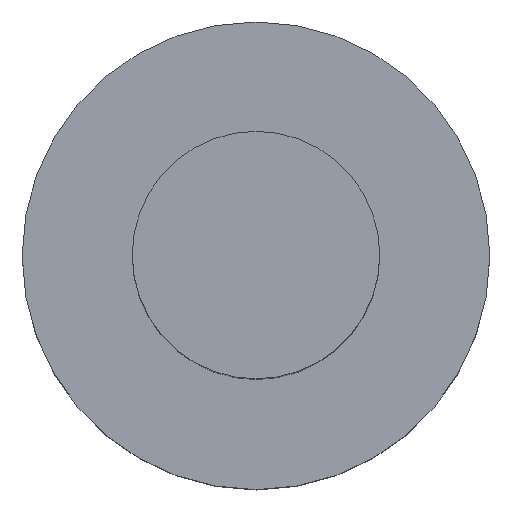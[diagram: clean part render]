
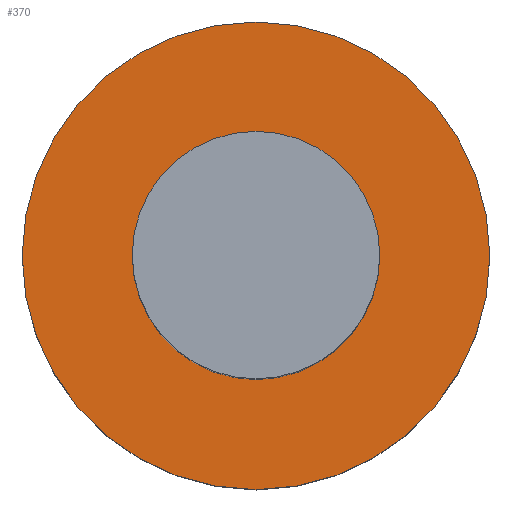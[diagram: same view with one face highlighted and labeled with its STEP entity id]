
A CAD part, top view. The second image highlights one B-rep face of the part: STEP entity #370.
In plain terms, the highlighted planar face has unit normal (0, 0, 1).
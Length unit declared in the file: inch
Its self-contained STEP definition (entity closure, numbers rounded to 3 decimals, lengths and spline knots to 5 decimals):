
#19=CARTESIAN_POINT('',(0.,0.,-0.375));
#20=DIRECTION('',(0.,0.,-1.));
#21=DIRECTION('',(1.,0.,0.));
#22=AXIS2_PLACEMENT_3D('',#19,#20,#21);
#24=CARTESIAN_POINT('',(0.,0.,-0.375));
#25=DIRECTION('',(0.,0.,1.));
#26=DIRECTION('',(1.,0.,0.));
#27=AXIS2_PLACEMENT_3D('',#24,#25,#26);
#34=CARTESIAN_POINT('',(0.,0.,-0.375));
#35=DIRECTION('',(0.,0.,1.));
#36=DIRECTION('',(1.,0.,0.));
#37=AXIS2_PLACEMENT_3D('',#34,#35,#36);
#114=CARTESIAN_POINT('',(0.,0.,-0.375));
#115=DIRECTION('',(0.,0.,-1.));
#116=DIRECTION('',(1.,0.,0.));
#117=AXIS2_PLACEMENT_3D('',#114,#115,#116);
#272=CARTESIAN_POINT('',(0.109,0.,-0.375));
#274=VERTEX_POINT('',#272);
#284=CARTESIAN_POINT('',(-0.109,0.,-0.375));
#286=VERTEX_POINT('',#284);
#295=CARTESIAN_POINT('',(0.206,0.,-0.375));
#296=CARTESIAN_POINT('',(-0.206,0.,-0.375));
#297=VERTEX_POINT('',#295);
#298=VERTEX_POINT('',#296);
#355=CARTESIAN_POINT('',(0.,0.,-0.375));
#356=DIRECTION('',(0.,0.,1.));
#357=DIRECTION('',(-1.,0.,0.));
#358=AXIS2_PLACEMENT_3D('',#355,#356,#357);
#359=PLANE('',#358);
#361=ORIENTED_EDGE('',*,*,#360,.F.);
#363=ORIENTED_EDGE('',*,*,#362,.T.);
#364=EDGE_LOOP('',(#361,#363));
#365=FACE_OUTER_BOUND('',#364,.F.);
#366=ORIENTED_EDGE('',*,*,#348,.F.);
#367=ORIENTED_EDGE('',*,*,#337,.T.);
#368=EDGE_LOOP('',(#366,#367));
#369=FACE_BOUND('',#368,.F.);
#370=ADVANCED_FACE('',(#365,#369),#359,.T.);
#23=CIRCLE('',#22,0.109);
#28=CIRCLE('',#27,0.109);
#38=CIRCLE('',#37,0.206);
#118=CIRCLE('',#117,0.206);
#337=EDGE_CURVE('',#274,#286,#28,.T.);
#348=EDGE_CURVE('',#274,#286,#23,.T.);
#360=EDGE_CURVE('',#297,#298,#38,.T.);
#362=EDGE_CURVE('',#297,#298,#118,.T.);
